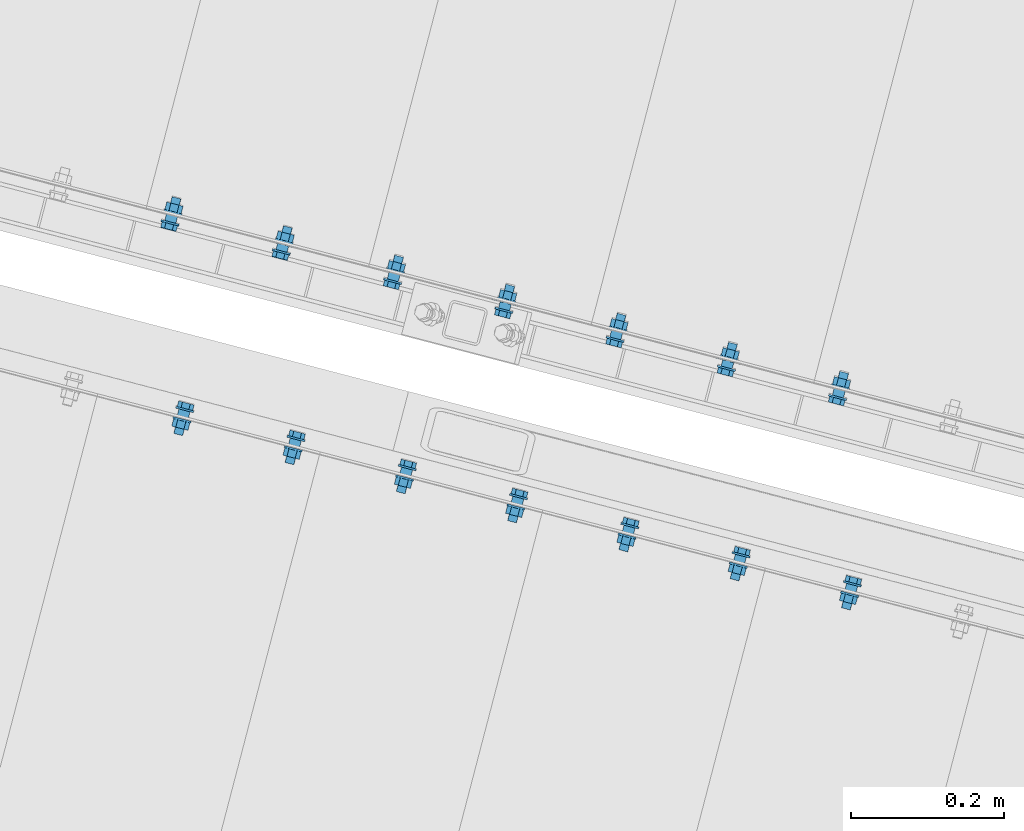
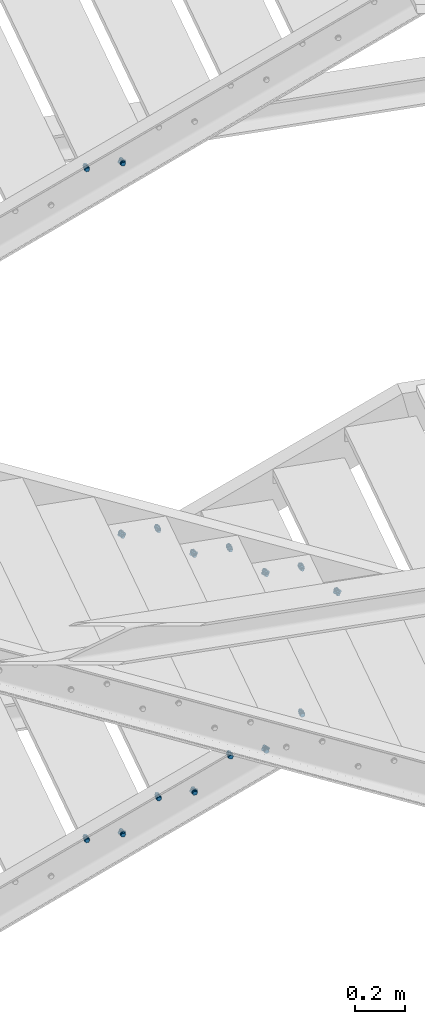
# One storey, part 142 of 169: 16 mechanical fasteners, 9 elements without a shape of their own.
"""IFC2X3 building model written with IfcOpenShell, lengths in millimetres."""

from ifc_helpers import new_model, si_unit, frame, frame_2d, origin_with_axes, origin_2d_with_axis, place, context, subcontext, project, spatial, polyline, circle_curve, parameter, trimmed, segment, composite_curve, circle, outline, extrude, source, transform, mapped, material, type_object, element, aggregate, save


model = new_model("IFC2X3")

# Units and contexts
model_context = context("Model", 3, precision=1e-05, world=origin_with_axes())
body_context = subcontext(model_context, "Body", "Model", "MODEL_VIEW")
ifc_project = project(units=[si_unit("LENGTHUNIT", "METRE", prefix="MILLI"), si_unit("AREAUNIT", "SQUARE_METRE"), si_unit("VOLUMEUNIT", "CUBIC_METRE"), si_unit("MASSUNIT", "GRAM", prefix="KILO"), si_unit("TIMEUNIT", "SECOND"), si_unit("PLANEANGLEUNIT", "RADIAN"), si_unit("SOLIDANGLEUNIT", "STERADIAN"), si_unit("THERMODYNAMICTEMPERATUREUNIT", "DEGREE_CELSIUS"), si_unit("LUMINOUSINTENSITYUNIT", "LUMEN")], contexts=[model_context])

# Site, building, storey
site_placement = place(None, origin_with_axes())
site = spatial("IfcSite", under=ifc_project, at=site_placement, Name="Undefined", CompositionType="ELEMENT")
building_placement = place(site_placement, origin_with_axes())
building = spatial("IfcBuilding", under=site, at=building_placement, Name="Undefined", CompositionType="ELEMENT")
storey_placement = place(building_placement, origin_with_axes())
storey = spatial("IfcBuildingStorey", under=building, at=storey_placement, Name="Undefined", CompositionType="ELEMENT", Elevation=0.0)

# Assembly, mechanical fastener
assembly_1_placement = place(storey_placement, origin_with_axes())
assembly_1 = element("IfcElementAssembly", 1, at=assembly_1_placement, inside=storey, Name="Steel Assembly", AssemblyPlace="NOTDEFINED", PredefinedType="RIGID_FRAME")
ifc_material = material(Name="Undefined")
discrete_accessory_type = type_object("IfcDiscreteAccessoryType", Name="Bolt assembly")
shared_shape_1 = source(origin_with_axes(), body_context, "Body", "SweptSolid", [
    extrude(circle(Radius=7.5, at=origin_2d_with_axis()), frame((0.0, -8.39999975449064, 0.0), z_axis=(0.0, 1.0, 0.0), x_axis=(1.0, 0.0, 0.0)), (0.0, 0.0, 1.0), 8.5),
    extrude(circle(Radius=7.5, at=origin_2d_with_axis()), frame((0.0, -0.100000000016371, 0.0), z_axis=(0.0, 1.0, 0.0), x_axis=(1.0, 0.0, 0.0)), (0.0, 0.0, 1.0), 3.1),
    extrude(outline(polyline([(10.39230484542, 0.0), (5.19615242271, 9.00000000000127), (-5.19615242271, 9.00000000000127), (-10.39230484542, 0.0), (-5.19615242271, -9.00000000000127), (5.19615242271, -9.00000000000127), (10.39230484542, 0.0)])), frame((0.0, -18.4999993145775, 0.0), z_axis=(0.0, 1.0, 0.0), x_axis=(1.0, 0.0, 0.0)), (0.0, 0.0, 1.0), 7.5),
    extrude(circle(Radius=6.0, at=origin_2d_with_axis()), frame((0.0, -10.9999999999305, 0.0), z_axis=(0.0, 1.0, 0.0), x_axis=(1.0, 0.0, 0.0)), (0.0, 0.0, 1.0), 35.0),
    extrude(circle(Radius=12.0, at=origin_2d_with_axis()), frame((0.0, -10.9999999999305, 0.0), z_axis=(0.0, 1.0, 0.0), x_axis=(1.0, 0.0, 0.0)), (0.0, 0.0, 1.0), 2.5),
    extrude(circle(Radius=12.0, at=origin_2d_with_axis()), frame((0.0, 2.99999999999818, 0.0), z_axis=(0.0, 1.0, 0.0), x_axis=(1.0, 0.0, 0.0)), (0.0, 0.0, 1.0), 2.5),
    extrude(outline(polyline([(10.96965511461, 0.0), (5.484827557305, 9.50000000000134), (-5.484827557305, 9.50000000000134), (-10.96965511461, 0.0), (-5.484827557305, -9.50000000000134), (5.484827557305, -9.50000000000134), (10.96965511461, 0.0)])), frame((0.0, 5.50000000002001, 0.0), z_axis=(0.0, 1.0, 0.0), x_axis=(1.0, 0.0, 0.0)), (0.0, 0.0, 1.0), 10.0),
])
mechanical_fastener_1_placement = place(assembly_1_placement, frame((-26178.0179908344, 6954.41184375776, 6500.09584768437), z_axis=(-2.54700353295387e-10, 0.0, -1.0), x_axis=(-0.967580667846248, 0.252562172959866, 0.0)))
mechanical_fastener_1 = element("IfcMechanicalFastener", 2, at=mechanical_fastener_1_placement, type_object=discrete_accessory_type, material=ifc_material, Name="Bolt assembly", NominalDiameter=12.0, NominalLength=35.0, context=body_context, shape_type="MappedRepresentation", body=[
    mapped(shared_shape_1, transform((264.999998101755, 3.26144800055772e-09, 24.9999997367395))),
])

assembly_2_placement = place(storey_placement, origin_with_axes())
assembly_2 = element("IfcElementAssembly", 3, at=assembly_2_placement, inside=storey, Name="Steel Assembly", AssemblyPlace="NOTDEFINED", PredefinedType="RIGID_FRAME")
mechanical_fastener_2_placement = place(assembly_2_placement, frame((-26531.5011611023, 6788.0910705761, 4850.32164420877), z_axis=(-2.54700353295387e-10, 0.0, -1.0), x_axis=(0.96754609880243, -0.252694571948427, 0.0)))
mechanical_fastener_2 = element("IfcMechanicalFastener", 4, at=mechanical_fastener_2_placement, type_object=discrete_accessory_type, material=ifc_material, Name="Bolt assembly", NominalDiameter=12.0, NominalLength=35.0, context=body_context, shape_type="MappedRepresentation", body=[
    mapped(shared_shape_1, transform((264.999998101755, 3.26144800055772e-09, 24.9999997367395))),
])

assembly_3_placement = place(storey_placement, origin_with_axes())
assembly_3 = element("IfcElementAssembly", 5, at=assembly_3_placement, inside=storey, Name="Steel Assembly", AssemblyPlace="NOTDEFINED", PredefinedType="RIGID_FRAME")
mechanical_fastener_3_placement = place(assembly_3_placement, frame((-26241.2373280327, 6712.2826982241, 4700.3216442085), z_axis=(-2.54700353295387e-10, 0.0, -1.0), x_axis=(0.96754609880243, -0.252694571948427, 0.0)))
mechanical_fastener_3 = element("IfcMechanicalFastener", 6, at=mechanical_fastener_3_placement, type_object=discrete_accessory_type, material=ifc_material, Name="Bolt assembly", NominalDiameter=12.0, NominalLength=35.0, context=body_context, shape_type="MappedRepresentation", body=[
    mapped(shared_shape_1, transform((264.999998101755, 3.26144800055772e-09, 24.9999997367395))),
])

assembly_4_placement = place(storey_placement, origin_with_axes())
assembly_4 = element("IfcElementAssembly", 7, at=assembly_4_placement, inside=storey, Name="Steel Assembly", AssemblyPlace="NOTDEFINED", PredefinedType="RIGID_FRAME")
mechanical_fastener_4_placement = place(assembly_4_placement, frame((-25950.9734949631, 6636.4743258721, 4550.32164420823), z_axis=(-2.54700353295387e-10, 0.0, -1.0), x_axis=(0.96754609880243, -0.252694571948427, 0.0)))
mechanical_fastener_4 = element("IfcMechanicalFastener", 8, at=mechanical_fastener_4_placement, type_object=discrete_accessory_type, material=ifc_material, Name="Bolt assembly", NominalDiameter=12.0, NominalLength=35.0, context=body_context, shape_type="MappedRepresentation", body=[
    mapped(shared_shape_1, transform((264.999998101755, 3.26144800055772e-09, 24.9999997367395))),
])

assembly_5_placement = place(storey_placement, origin_with_axes())
assembly_5 = element("IfcElementAssembly", 9, at=assembly_5_placement, inside=storey, Name="Steel Assembly", AssemblyPlace="NOTDEFINED", PredefinedType="RIGID_FRAME")
mechanical_fastener_5_placement = place(assembly_5_placement, frame((-25307.3094651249, 6726.66897274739, 3650.0958743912), z_axis=(-2.54700353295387e-10, 0.0, -1.0), x_axis=(-0.967580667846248, 0.252562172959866, 0.0)))
mechanical_fastener_5 = element("IfcMechanicalFastener", 10, at=mechanical_fastener_5_placement, type_object=discrete_accessory_type, material=ifc_material, Name="Bolt assembly", NominalDiameter=12.0, NominalLength=35.0, context=body_context, shape_type="MappedRepresentation", body=[
    mapped(shared_shape_1, transform((264.999998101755, 3.26144800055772e-09, 24.9999997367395))),
])
aggregate(assembly_5, [mechanical_fastener_5])

assembly_6_placement = place(storey_placement, origin_with_axes())
assembly_6 = element("IfcElementAssembly", 11, at=assembly_6_placement, inside=storey, Name="Steel Assembly", AssemblyPlace="NOTDEFINED", PredefinedType="RIGID_FRAME")
mechanical_fastener_6_placement = place(assembly_6_placement, frame((-25597.5836688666, 6802.4376255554, 3500.09587439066), z_axis=(-2.54700353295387e-10, 0.0, -1.0), x_axis=(-0.967580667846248, 0.252562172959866, 0.0)))
mechanical_fastener_6 = element("IfcMechanicalFastener", 12, at=mechanical_fastener_6_placement, type_object=discrete_accessory_type, material=ifc_material, Name="Bolt assembly", NominalDiameter=12.0, NominalLength=35.0, context=body_context, shape_type="MappedRepresentation", body=[
    mapped(shared_shape_1, transform((264.999998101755, 3.26144800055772e-09, 24.9999997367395))),
])

assembly_7_placement = place(storey_placement, origin_with_axes())
assembly_7 = element("IfcElementAssembly", 13, at=assembly_7_placement, inside=storey, Name="Steel Assembly", AssemblyPlace="NOTDEFINED", PredefinedType="RIGID_FRAME")
mechanical_fastener_7_placement = place(assembly_7_placement, frame((-25887.8578726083, 6878.20627836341, 3350.09587439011), z_axis=(-2.54700353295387e-10, 0.0, -1.0), x_axis=(-0.967580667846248, 0.252562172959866, 0.0)))
mechanical_fastener_7 = element("IfcMechanicalFastener", 14, at=mechanical_fastener_7_placement, type_object=discrete_accessory_type, material=ifc_material, Name="Bolt assembly", NominalDiameter=12.0, NominalLength=35.0, context=body_context, shape_type="MappedRepresentation", body=[
    mapped(shared_shape_1, transform((264.999998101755, 3.26144800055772e-09, 24.9999997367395))),
])

assembly_8_placement = place(storey_placement, origin_with_axes())
assembly_8 = element("IfcElementAssembly", 15, at=assembly_8_placement, inside=storey, Name="Steel Assembly", AssemblyPlace="NOTDEFINED", PredefinedType="RIGID_FRAME")
mechanical_fastener_8_placement = place(assembly_8_placement, frame((-26178.13207635, 6953.97493117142, 3200.09587438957), z_axis=(-2.54700353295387e-10, 0.0, -1.0), x_axis=(-0.967580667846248, 0.252562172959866, 0.0)))
mechanical_fastener_8 = element("IfcMechanicalFastener", 16, at=mechanical_fastener_8_placement, type_object=discrete_accessory_type, material=ifc_material, Name="Bolt assembly", NominalDiameter=12.0, NominalLength=35.0, context=body_context, shape_type="MappedRepresentation", body=[
    mapped(shared_shape_1, transform((264.999998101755, 3.26144800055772e-09, 24.9999997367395))),
])

# Mechanical fastener
shared_shape_2 = source(origin_with_axes(), body_context, "Body", "SweptSolid", [
    extrude(circle(Radius=7.5, at=origin_2d_with_axis()), frame((0.0, -8.39999975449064, 0.0), z_axis=(0.0, 1.0, 0.0), x_axis=(1.0, 0.0, 0.0)), (0.0, 0.0, 1.0), 8.5),
    extrude(outline(composite_curve([segment(polyline([(-10.0, 7.5), (10.0, 7.5)]), True, "CONTINUOUS"), segment(trimmed(circle_curve(frame_2d((10.0, 0.0), x_axis=(0.0, 1.0)), 7.5), [parameter(0.0)], [parameter(3.14159265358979)], False, "PARAMETER"), True, "CONTINUOUS"), segment(polyline([(10.0, -7.5), (-10.0, -7.5)]), True, "CONTINUOUS"), segment(trimmed(circle_curve(frame_2d((-10.0, 0.0), x_axis=(0.0, -1.0)), 7.5), [parameter(0.0)], [parameter(3.14159265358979)], False, "PARAMETER"), True, "DISCONTINUOUS")], self_intersect=False)), frame((0.0, -0.100000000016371, 0.0), z_axis=(0.0, 1.0, 0.0), x_axis=(1.0, 0.0, 0.0)), (0.0, 0.0, 1.0), 3.1),
    extrude(outline(polyline([(10.39230484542, 0.0), (5.19615242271, 9.00000000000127), (-5.19615242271, 9.00000000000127), (-10.39230484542, 0.0), (-5.19615242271, -9.00000000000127), (5.19615242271, -9.00000000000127), (10.39230484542, 0.0)])), frame((0.0, -18.4999993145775, 0.0), z_axis=(0.0, 1.0, 0.0), x_axis=(1.0, 0.0, 0.0)), (0.0, 0.0, 1.0), 7.5),
    extrude(circle(Radius=6.0, at=origin_2d_with_axis()), frame((0.0, -10.9999999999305, 0.0), z_axis=(0.0, 1.0, 0.0), x_axis=(1.0, 0.0, 0.0)), (0.0, 0.0, 1.0), 35.0),
    extrude(circle(Radius=12.0, at=origin_2d_with_axis()), frame((0.0, -10.9999999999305, 0.0), z_axis=(0.0, 1.0, 0.0), x_axis=(1.0, 0.0, 0.0)), (0.0, 0.0, 1.0), 2.5),
    extrude(circle(Radius=12.0, at=origin_2d_with_axis()), frame((0.0, 2.99999999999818, 0.0), z_axis=(0.0, 1.0, 0.0), x_axis=(1.0, 0.0, 0.0)), (0.0, 0.0, 1.0), 2.5),
    extrude(outline(polyline([(10.96965511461, 0.0), (5.484827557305, 9.50000000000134), (-5.484827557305, 9.50000000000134), (-10.96965511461, 0.0), (-5.484827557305, -9.50000000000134), (5.484827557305, -9.50000000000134), (10.96965511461, 0.0)])), frame((0.0, 5.50000000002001, 0.0), z_axis=(0.0, 1.0, 0.0), x_axis=(1.0, 0.0, 0.0)), (0.0, 0.0, 1.0), 10.0),
])
mechanical_fastener_9_placement = place(assembly_1_placement, frame((-26178.0179908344, 6954.41184375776, 6500.09584768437), z_axis=(-2.54700353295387e-10, 0.0, -1.0), x_axis=(-0.967580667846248, 0.252562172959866, 0.0)))
mechanical_fastener_9 = element("IfcMechanicalFastener", 17, at=mechanical_fastener_9_placement, type_object=discrete_accessory_type, material=ifc_material, Name="Bolt assembly", NominalDiameter=12.0, NominalLength=35.0, context=body_context, shape_type="MappedRepresentation", body=[
    mapped(shared_shape_2, transform((115.000000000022, -4.04725142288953e-10, 25.0))),
])

aggregate(assembly_1, [mechanical_fastener_9, mechanical_fastener_1])

shared_shape_3 = source(origin_with_axes(), body_context, "Body", "SweptSolid", [
    extrude(circle(Radius=7.5, at=origin_2d_with_axis()), frame((0.0, -8.39999975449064, 0.0), z_axis=(0.0, 1.0, 0.0), x_axis=(1.0, 0.0, 0.0)), (0.0, 0.0, 1.0), 8.5),
    extrude(outline(composite_curve([segment(polyline([(-10.0, 7.5), (10.0, 7.5)]), True, "CONTINUOUS"), segment(trimmed(circle_curve(frame_2d((10.0, 0.0), x_axis=(0.0, 1.0)), 7.5), [parameter(0.0)], [parameter(3.14159265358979)], False, "PARAMETER"), True, "CONTINUOUS"), segment(polyline([(10.0, -7.5), (-10.0, -7.5)]), True, "CONTINUOUS"), segment(trimmed(circle_curve(frame_2d((-10.0, 0.0), x_axis=(0.0, -1.0)), 7.5), [parameter(0.0)], [parameter(3.14159265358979)], False, "PARAMETER"), True, "DISCONTINUOUS")], self_intersect=False)), frame((0.0, -0.100000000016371, 0.0), z_axis=(0.0, 1.0, 0.0), x_axis=(1.0, 0.0, 0.0)), (0.0, 0.0, 1.0), 3.1),
    extrude(outline(polyline([(10.39230484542, 0.0), (5.19615242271, 9.00000000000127), (-5.19615242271, 9.00000000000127), (-10.39230484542, 0.0), (-5.19615242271, -9.00000000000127), (5.19615242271, -9.00000000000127), (10.39230484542, 0.0)])), frame((0.0, -18.4999993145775, 0.0), z_axis=(0.0, 1.0, 0.0), x_axis=(1.0, 0.0, 0.0)), (0.0, 0.0, 1.0), 7.5),
    extrude(circle(Radius=6.0, at=origin_2d_with_axis()), frame((0.0, -10.9999999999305, 0.0), z_axis=(0.0, 1.0, 0.0), x_axis=(1.0, 0.0, 0.0)), (0.0, 0.0, 1.0), 35.0),
    extrude(circle(Radius=12.0, at=origin_2d_with_axis()), frame((0.0, -10.9999999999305, 0.0), z_axis=(0.0, 1.0, 0.0), x_axis=(1.0, 0.0, 0.0)), (0.0, 0.0, 1.0), 2.5),
    extrude(circle(Radius=12.0, at=origin_2d_with_axis()), frame((0.0, 2.99999999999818, 0.0), z_axis=(0.0, 1.0, 0.0), x_axis=(1.0, 0.0, 0.0)), (0.0, 0.0, 1.0), 2.5),
    extrude(outline(polyline([(10.96965511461, 0.0), (5.484827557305, 9.50000000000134), (-5.484827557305, 9.50000000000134), (-10.96965511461, 0.0), (-5.484827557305, -9.50000000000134), (5.484827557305, -9.50000000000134), (10.96965511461, 0.0)])), frame((0.0, 5.50000000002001, 0.0), z_axis=(0.0, 1.0, 0.0), x_axis=(1.0, 0.0, 0.0)), (0.0, 0.0, 1.0), 10.0),
])
mechanical_fastener_10_placement = place(assembly_2_placement, frame((-26531.5011611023, 6788.0910705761, 4850.32164420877), z_axis=(-2.54700353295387e-10, 0.0, -1.0), x_axis=(0.96754609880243, -0.252694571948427, 0.0)))
mechanical_fastener_10 = element("IfcMechanicalFastener", 18, at=mechanical_fastener_10_placement, type_object=discrete_accessory_type, material=ifc_material, Name="Bolt assembly", NominalDiameter=12.0, NominalLength=35.0, context=body_context, shape_type="MappedRepresentation", body=[
    mapped(shared_shape_3, transform((115.000000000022, -4.04725142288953e-10, 25.0))),
])

aggregate(assembly_2, [mechanical_fastener_10, mechanical_fastener_2])

shared_shape_4 = source(origin_with_axes(), body_context, "Body", "SweptSolid", [
    extrude(circle(Radius=7.5, at=origin_2d_with_axis()), frame((0.0, -8.39999975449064, 0.0), z_axis=(0.0, 1.0, 0.0), x_axis=(1.0, 0.0, 0.0)), (0.0, 0.0, 1.0), 8.5),
    extrude(outline(composite_curve([segment(polyline([(-10.0, 7.5), (10.0, 7.5)]), True, "CONTINUOUS"), segment(trimmed(circle_curve(frame_2d((10.0, 0.0), x_axis=(0.0, 1.0)), 7.5), [parameter(0.0)], [parameter(3.14159265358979)], False, "PARAMETER"), True, "CONTINUOUS"), segment(polyline([(10.0, -7.5), (-10.0, -7.5)]), True, "CONTINUOUS"), segment(trimmed(circle_curve(frame_2d((-10.0, 0.0), x_axis=(0.0, -1.0)), 7.5), [parameter(0.0)], [parameter(3.14159265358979)], False, "PARAMETER"), True, "DISCONTINUOUS")], self_intersect=False)), frame((0.0, -0.100000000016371, 0.0), z_axis=(0.0, 1.0, 0.0), x_axis=(1.0, 0.0, 0.0)), (0.0, 0.0, 1.0), 3.1),
    extrude(outline(polyline([(10.39230484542, 0.0), (5.19615242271, 9.00000000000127), (-5.19615242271, 9.00000000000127), (-10.39230484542, 0.0), (-5.19615242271, -9.00000000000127), (5.19615242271, -9.00000000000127), (10.39230484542, 0.0)])), frame((0.0, -18.4999993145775, 0.0), z_axis=(0.0, 1.0, 0.0), x_axis=(1.0, 0.0, 0.0)), (0.0, 0.0, 1.0), 7.5),
    extrude(circle(Radius=6.0, at=origin_2d_with_axis()), frame((0.0, -10.9999999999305, 0.0), z_axis=(0.0, 1.0, 0.0), x_axis=(1.0, 0.0, 0.0)), (0.0, 0.0, 1.0), 35.0),
    extrude(circle(Radius=12.0, at=origin_2d_with_axis()), frame((0.0, -10.9999999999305, 0.0), z_axis=(0.0, 1.0, 0.0), x_axis=(1.0, 0.0, 0.0)), (0.0, 0.0, 1.0), 2.5),
    extrude(circle(Radius=12.0, at=origin_2d_with_axis()), frame((0.0, 2.99999999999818, 0.0), z_axis=(0.0, 1.0, 0.0), x_axis=(1.0, 0.0, 0.0)), (0.0, 0.0, 1.0), 2.5),
    extrude(outline(polyline([(10.96965511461, 0.0), (5.484827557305, 9.50000000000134), (-5.484827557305, 9.50000000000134), (-10.96965511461, 0.0), (-5.484827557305, -9.50000000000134), (5.484827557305, -9.50000000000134), (10.96965511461, 0.0)])), frame((0.0, 5.50000000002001, 0.0), z_axis=(0.0, 1.0, 0.0), x_axis=(1.0, 0.0, 0.0)), (0.0, 0.0, 1.0), 10.0),
])
mechanical_fastener_11_placement = place(assembly_3_placement, frame((-26241.2373280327, 6712.2826982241, 4700.3216442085), z_axis=(-2.54700353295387e-10, 0.0, -1.0), x_axis=(0.96754609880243, -0.252694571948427, 0.0)))
mechanical_fastener_11 = element("IfcMechanicalFastener", 19, at=mechanical_fastener_11_placement, type_object=discrete_accessory_type, material=ifc_material, Name="Bolt assembly", NominalDiameter=12.0, NominalLength=35.0, context=body_context, shape_type="MappedRepresentation", body=[
    mapped(shared_shape_4, transform((115.000000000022, -4.04725142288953e-10, 25.0))),
])

aggregate(assembly_3, [mechanical_fastener_11, mechanical_fastener_3])

shared_shape_5 = source(origin_with_axes(), body_context, "Body", "SweptSolid", [
    extrude(circle(Radius=7.5, at=origin_2d_with_axis()), frame((0.0, -8.39999975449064, 0.0), z_axis=(0.0, 1.0, 0.0), x_axis=(1.0, 0.0, 0.0)), (0.0, 0.0, 1.0), 8.5),
    extrude(outline(composite_curve([segment(polyline([(-10.0, 7.5), (10.0, 7.5)]), True, "CONTINUOUS"), segment(trimmed(circle_curve(frame_2d((10.0, 0.0), x_axis=(0.0, 1.0)), 7.5), [parameter(0.0)], [parameter(3.14159265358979)], False, "PARAMETER"), True, "CONTINUOUS"), segment(polyline([(10.0, -7.5), (-10.0, -7.5)]), True, "CONTINUOUS"), segment(trimmed(circle_curve(frame_2d((-10.0, 0.0), x_axis=(0.0, -1.0)), 7.5), [parameter(0.0)], [parameter(3.14159265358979)], False, "PARAMETER"), True, "DISCONTINUOUS")], self_intersect=False)), frame((0.0, -0.100000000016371, 0.0), z_axis=(0.0, 1.0, 0.0), x_axis=(1.0, 0.0, 0.0)), (0.0, 0.0, 1.0), 3.1),
    extrude(outline(polyline([(10.39230484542, 0.0), (5.19615242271, 9.00000000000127), (-5.19615242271, 9.00000000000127), (-10.39230484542, 0.0), (-5.19615242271, -9.00000000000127), (5.19615242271, -9.00000000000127), (10.39230484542, 0.0)])), frame((0.0, -18.4999993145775, 0.0), z_axis=(0.0, 1.0, 0.0), x_axis=(1.0, 0.0, 0.0)), (0.0, 0.0, 1.0), 7.5),
    extrude(circle(Radius=6.0, at=origin_2d_with_axis()), frame((0.0, -10.9999999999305, 0.0), z_axis=(0.0, 1.0, 0.0), x_axis=(1.0, 0.0, 0.0)), (0.0, 0.0, 1.0), 35.0),
    extrude(circle(Radius=12.0, at=origin_2d_with_axis()), frame((0.0, -10.9999999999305, 0.0), z_axis=(0.0, 1.0, 0.0), x_axis=(1.0, 0.0, 0.0)), (0.0, 0.0, 1.0), 2.5),
    extrude(circle(Radius=12.0, at=origin_2d_with_axis()), frame((0.0, 2.99999999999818, 0.0), z_axis=(0.0, 1.0, 0.0), x_axis=(1.0, 0.0, 0.0)), (0.0, 0.0, 1.0), 2.5),
    extrude(outline(polyline([(10.96965511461, 0.0), (5.484827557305, 9.50000000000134), (-5.484827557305, 9.50000000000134), (-10.96965511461, 0.0), (-5.484827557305, -9.50000000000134), (5.484827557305, -9.50000000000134), (10.96965511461, 0.0)])), frame((0.0, 5.50000000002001, 0.0), z_axis=(0.0, 1.0, 0.0), x_axis=(1.0, 0.0, 0.0)), (0.0, 0.0, 1.0), 10.0),
])
mechanical_fastener_12_placement = place(assembly_4_placement, frame((-25950.9734949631, 6636.4743258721, 4550.32164420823), z_axis=(-2.54700353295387e-10, 0.0, -1.0), x_axis=(0.96754609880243, -0.252694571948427, 0.0)))
mechanical_fastener_12 = element("IfcMechanicalFastener", 20, at=mechanical_fastener_12_placement, type_object=discrete_accessory_type, material=ifc_material, Name="Bolt assembly", NominalDiameter=12.0, NominalLength=35.0, context=body_context, shape_type="MappedRepresentation", body=[
    mapped(shared_shape_5, transform((115.000000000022, -4.04725142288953e-10, 25.0))),
])

aggregate(assembly_4, [mechanical_fastener_12, mechanical_fastener_4])

# Assembly, mechanical fastener
assembly_9_placement = place(storey_placement, origin_with_axes())
assembly_9 = element("IfcElementAssembly", 21, at=assembly_9_placement, inside=storey, Name="Steel Assembly", AssemblyPlace="NOTDEFINED", PredefinedType="RIGID_FRAME")
shared_shape_6 = source(origin_with_axes(), body_context, "Body", "SweptSolid", [
    extrude(circle(Radius=7.5, at=origin_2d_with_axis()), frame((0.0, -8.39999975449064, 0.0), z_axis=(0.0, 1.0, 0.0), x_axis=(1.0, 0.0, 0.0)), (0.0, 0.0, 1.0), 8.5),
    extrude(outline(composite_curve([segment(polyline([(-10.0, 7.5), (10.0, 7.5)]), True, "CONTINUOUS"), segment(trimmed(circle_curve(frame_2d((10.0, 0.0), x_axis=(0.0, 1.0)), 7.5), [parameter(0.0)], [parameter(3.14159265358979)], False, "PARAMETER"), True, "CONTINUOUS"), segment(polyline([(10.0, -7.5), (-10.0, -7.5)]), True, "CONTINUOUS"), segment(trimmed(circle_curve(frame_2d((-10.0, 0.0), x_axis=(0.0, -1.0)), 7.5), [parameter(0.0)], [parameter(3.14159265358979)], False, "PARAMETER"), True, "DISCONTINUOUS")], self_intersect=False)), frame((0.0, -0.100000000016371, 0.0), z_axis=(0.0, 1.0, 0.0), x_axis=(1.0, 0.0, 0.0)), (0.0, 0.0, 1.0), 3.1),
    extrude(outline(polyline([(10.39230484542, 0.0), (5.19615242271, 9.00000000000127), (-5.19615242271, 9.00000000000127), (-10.39230484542, 0.0), (-5.19615242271, -9.00000000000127), (5.19615242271, -9.00000000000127), (10.39230484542, 0.0)])), frame((0.0, -18.4999993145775, 0.0), z_axis=(0.0, 1.0, 0.0), x_axis=(1.0, 0.0, 0.0)), (0.0, 0.0, 1.0), 7.5),
    extrude(circle(Radius=6.0, at=origin_2d_with_axis()), frame((0.0, -10.9999999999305, 0.0), z_axis=(0.0, 1.0, 0.0), x_axis=(1.0, 0.0, 0.0)), (0.0, 0.0, 1.0), 35.0),
    extrude(circle(Radius=12.0, at=origin_2d_with_axis()), frame((0.0, -10.9999999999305, 0.0), z_axis=(0.0, 1.0, 0.0), x_axis=(1.0, 0.0, 0.0)), (0.0, 0.0, 1.0), 2.5),
    extrude(circle(Radius=12.0, at=origin_2d_with_axis()), frame((0.0, 2.99999999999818, 0.0), z_axis=(0.0, 1.0, 0.0), x_axis=(1.0, 0.0, 0.0)), (0.0, 0.0, 1.0), 2.5),
    extrude(outline(polyline([(10.96965511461, 0.0), (5.484827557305, 9.50000000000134), (-5.484827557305, 9.50000000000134), (-10.96965511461, 0.0), (-5.484827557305, -9.50000000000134), (5.484827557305, -9.50000000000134), (10.96965511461, 0.0)])), frame((0.0, 5.50000000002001, 0.0), z_axis=(0.0, 1.0, 0.0), x_axis=(1.0, 0.0, 0.0)), (0.0, 0.0, 1.0), 10.0),
])
mechanical_fastener_13_placement = place(assembly_9_placement, frame((-25660.7096618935, 6560.6659535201, 4400.32164420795), z_axis=(-2.54700353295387e-10, 0.0, -1.0), x_axis=(0.96754609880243, -0.252694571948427, 0.0)))
mechanical_fastener_13 = element("IfcMechanicalFastener", 22, at=mechanical_fastener_13_placement, type_object=discrete_accessory_type, material=ifc_material, Name="Bolt assembly", NominalDiameter=12.0, NominalLength=35.0, context=body_context, shape_type="MappedRepresentation", body=[
    mapped(shared_shape_6, transform((115.000000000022, -4.04725142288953e-10, 25.0))),
])
aggregate(assembly_9, [mechanical_fastener_13])

# Mechanical fastener
shared_shape_7 = source(origin_with_axes(), body_context, "Body", "SweptSolid", [
    extrude(circle(Radius=7.5, at=origin_2d_with_axis()), frame((0.0, -8.39999975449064, 0.0), z_axis=(0.0, 1.0, 0.0), x_axis=(1.0, 0.0, 0.0)), (0.0, 0.0, 1.0), 8.5),
    extrude(outline(composite_curve([segment(polyline([(-10.0, 7.5), (10.0, 7.5)]), True, "CONTINUOUS"), segment(trimmed(circle_curve(frame_2d((10.0, 0.0), x_axis=(0.0, 1.0)), 7.5), [parameter(0.0)], [parameter(3.14159265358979)], False, "PARAMETER"), True, "CONTINUOUS"), segment(polyline([(10.0, -7.5), (-10.0, -7.5)]), True, "CONTINUOUS"), segment(trimmed(circle_curve(frame_2d((-10.0, 0.0), x_axis=(0.0, -1.0)), 7.5), [parameter(0.0)], [parameter(3.14159265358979)], False, "PARAMETER"), True, "DISCONTINUOUS")], self_intersect=False)), frame((0.0, -0.100000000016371, 0.0), z_axis=(0.0, 1.0, 0.0), x_axis=(1.0, 0.0, 0.0)), (0.0, 0.0, 1.0), 3.1),
    extrude(outline(polyline([(10.39230484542, 0.0), (5.19615242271, 9.00000000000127), (-5.19615242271, 9.00000000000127), (-10.39230484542, 0.0), (-5.19615242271, -9.00000000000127), (5.19615242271, -9.00000000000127), (10.39230484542, 0.0)])), frame((0.0, -18.4999993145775, 0.0), z_axis=(0.0, 1.0, 0.0), x_axis=(1.0, 0.0, 0.0)), (0.0, 0.0, 1.0), 7.5),
    extrude(circle(Radius=6.0, at=origin_2d_with_axis()), frame((0.0, -10.9999999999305, 0.0), z_axis=(0.0, 1.0, 0.0), x_axis=(1.0, 0.0, 0.0)), (0.0, 0.0, 1.0), 35.0),
    extrude(circle(Radius=12.0, at=origin_2d_with_axis()), frame((0.0, -10.9999999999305, 0.0), z_axis=(0.0, 1.0, 0.0), x_axis=(1.0, 0.0, 0.0)), (0.0, 0.0, 1.0), 2.5),
    extrude(circle(Radius=12.0, at=origin_2d_with_axis()), frame((0.0, 2.99999999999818, 0.0), z_axis=(0.0, 1.0, 0.0), x_axis=(1.0, 0.0, 0.0)), (0.0, 0.0, 1.0), 2.5),
    extrude(outline(polyline([(10.96965511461, 0.0), (5.484827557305, 9.50000000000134), (-5.484827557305, 9.50000000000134), (-10.96965511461, 0.0), (-5.484827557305, -9.50000000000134), (5.484827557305, -9.50000000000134), (10.96965511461, 0.0)])), frame((0.0, 5.50000000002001, 0.0), z_axis=(0.0, 1.0, 0.0), x_axis=(1.0, 0.0, 0.0)), (0.0, 0.0, 1.0), 10.0),
])
mechanical_fastener_14_placement = place(assembly_6_placement, frame((-25597.5836688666, 6802.4376255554, 3500.09587439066), z_axis=(-2.54700353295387e-10, 0.0, -1.0), x_axis=(-0.967580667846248, 0.252562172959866, 0.0)))
mechanical_fastener_14 = element("IfcMechanicalFastener", 23, at=mechanical_fastener_14_placement, type_object=discrete_accessory_type, material=ifc_material, Name="Bolt assembly", NominalDiameter=12.0, NominalLength=35.0, context=body_context, shape_type="MappedRepresentation", body=[
    mapped(shared_shape_7, transform((115.000000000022, -4.04725142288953e-10, 25.0))),
])

aggregate(assembly_6, [mechanical_fastener_14, mechanical_fastener_6])

shared_shape_8 = source(origin_with_axes(), body_context, "Body", "SweptSolid", [
    extrude(circle(Radius=7.5, at=origin_2d_with_axis()), frame((0.0, -8.39999975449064, 0.0), z_axis=(0.0, 1.0, 0.0), x_axis=(1.0, 0.0, 0.0)), (0.0, 0.0, 1.0), 8.5),
    extrude(outline(composite_curve([segment(polyline([(-10.0, 7.5), (10.0, 7.5)]), True, "CONTINUOUS"), segment(trimmed(circle_curve(frame_2d((10.0, 0.0), x_axis=(0.0, 1.0)), 7.5), [parameter(0.0)], [parameter(3.14159265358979)], False, "PARAMETER"), True, "CONTINUOUS"), segment(polyline([(10.0, -7.5), (-10.0, -7.5)]), True, "CONTINUOUS"), segment(trimmed(circle_curve(frame_2d((-10.0, 0.0), x_axis=(0.0, -1.0)), 7.5), [parameter(0.0)], [parameter(3.14159265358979)], False, "PARAMETER"), True, "DISCONTINUOUS")], self_intersect=False)), frame((0.0, -0.100000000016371, 0.0), z_axis=(0.0, 1.0, 0.0), x_axis=(1.0, 0.0, 0.0)), (0.0, 0.0, 1.0), 3.1),
    extrude(outline(polyline([(10.39230484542, 0.0), (5.19615242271, 9.00000000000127), (-5.19615242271, 9.00000000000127), (-10.39230484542, 0.0), (-5.19615242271, -9.00000000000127), (5.19615242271, -9.00000000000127), (10.39230484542, 0.0)])), frame((0.0, -18.4999993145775, 0.0), z_axis=(0.0, 1.0, 0.0), x_axis=(1.0, 0.0, 0.0)), (0.0, 0.0, 1.0), 7.5),
    extrude(circle(Radius=6.0, at=origin_2d_with_axis()), frame((0.0, -10.9999999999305, 0.0), z_axis=(0.0, 1.0, 0.0), x_axis=(1.0, 0.0, 0.0)), (0.0, 0.0, 1.0), 35.0),
    extrude(circle(Radius=12.0, at=origin_2d_with_axis()), frame((0.0, -10.9999999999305, 0.0), z_axis=(0.0, 1.0, 0.0), x_axis=(1.0, 0.0, 0.0)), (0.0, 0.0, 1.0), 2.5),
    extrude(circle(Radius=12.0, at=origin_2d_with_axis()), frame((0.0, 2.99999999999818, 0.0), z_axis=(0.0, 1.0, 0.0), x_axis=(1.0, 0.0, 0.0)), (0.0, 0.0, 1.0), 2.5),
    extrude(outline(polyline([(10.96965511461, 0.0), (5.484827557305, 9.50000000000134), (-5.484827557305, 9.50000000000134), (-10.96965511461, 0.0), (-5.484827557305, -9.50000000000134), (5.484827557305, -9.50000000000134), (10.96965511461, 0.0)])), frame((0.0, 5.50000000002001, 0.0), z_axis=(0.0, 1.0, 0.0), x_axis=(1.0, 0.0, 0.0)), (0.0, 0.0, 1.0), 10.0),
])
mechanical_fastener_15_placement = place(assembly_7_placement, frame((-25887.8578726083, 6878.20627836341, 3350.09587439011), z_axis=(-2.54700353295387e-10, 0.0, -1.0), x_axis=(-0.967580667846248, 0.252562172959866, 0.0)))
mechanical_fastener_15 = element("IfcMechanicalFastener", 24, at=mechanical_fastener_15_placement, type_object=discrete_accessory_type, material=ifc_material, Name="Bolt assembly", NominalDiameter=12.0, NominalLength=35.0, context=body_context, shape_type="MappedRepresentation", body=[
    mapped(shared_shape_8, transform((115.000000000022, -4.04725142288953e-10, 25.0))),
])

aggregate(assembly_7, [mechanical_fastener_15, mechanical_fastener_7])

shared_shape_9 = source(origin_with_axes(), body_context, "Body", "SweptSolid", [
    extrude(circle(Radius=7.5, at=origin_2d_with_axis()), frame((0.0, -8.39999975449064, 0.0), z_axis=(0.0, 1.0, 0.0), x_axis=(1.0, 0.0, 0.0)), (0.0, 0.0, 1.0), 8.5),
    extrude(outline(composite_curve([segment(polyline([(-10.0, 7.5), (10.0, 7.5)]), True, "CONTINUOUS"), segment(trimmed(circle_curve(frame_2d((10.0, 0.0), x_axis=(0.0, 1.0)), 7.5), [parameter(0.0)], [parameter(3.14159265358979)], False, "PARAMETER"), True, "CONTINUOUS"), segment(polyline([(10.0, -7.5), (-10.0, -7.5)]), True, "CONTINUOUS"), segment(trimmed(circle_curve(frame_2d((-10.0, 0.0), x_axis=(0.0, -1.0)), 7.5), [parameter(0.0)], [parameter(3.14159265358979)], False, "PARAMETER"), True, "DISCONTINUOUS")], self_intersect=False)), frame((0.0, -0.100000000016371, 0.0), z_axis=(0.0, 1.0, 0.0), x_axis=(1.0, 0.0, 0.0)), (0.0, 0.0, 1.0), 3.1),
    extrude(outline(polyline([(10.39230484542, 0.0), (5.19615242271, 9.00000000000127), (-5.19615242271, 9.00000000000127), (-10.39230484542, 0.0), (-5.19615242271, -9.00000000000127), (5.19615242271, -9.00000000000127), (10.39230484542, 0.0)])), frame((0.0, -18.4999993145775, 0.0), z_axis=(0.0, 1.0, 0.0), x_axis=(1.0, 0.0, 0.0)), (0.0, 0.0, 1.0), 7.5),
    extrude(circle(Radius=6.0, at=origin_2d_with_axis()), frame((0.0, -10.9999999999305, 0.0), z_axis=(0.0, 1.0, 0.0), x_axis=(1.0, 0.0, 0.0)), (0.0, 0.0, 1.0), 35.0),
    extrude(circle(Radius=12.0, at=origin_2d_with_axis()), frame((0.0, -10.9999999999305, 0.0), z_axis=(0.0, 1.0, 0.0), x_axis=(1.0, 0.0, 0.0)), (0.0, 0.0, 1.0), 2.5),
    extrude(circle(Radius=12.0, at=origin_2d_with_axis()), frame((0.0, 2.99999999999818, 0.0), z_axis=(0.0, 1.0, 0.0), x_axis=(1.0, 0.0, 0.0)), (0.0, 0.0, 1.0), 2.5),
    extrude(outline(polyline([(10.96965511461, 0.0), (5.484827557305, 9.50000000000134), (-5.484827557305, 9.50000000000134), (-10.96965511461, 0.0), (-5.484827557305, -9.50000000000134), (5.484827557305, -9.50000000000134), (10.96965511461, 0.0)])), frame((0.0, 5.50000000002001, 0.0), z_axis=(0.0, 1.0, 0.0), x_axis=(1.0, 0.0, 0.0)), (0.0, 0.0, 1.0), 10.0),
])
mechanical_fastener_16_placement = place(assembly_8_placement, frame((-26178.13207635, 6953.97493117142, 3200.09587438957), z_axis=(-2.54700353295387e-10, 0.0, -1.0), x_axis=(-0.967580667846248, 0.252562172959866, 0.0)))
mechanical_fastener_16 = element("IfcMechanicalFastener", 25, at=mechanical_fastener_16_placement, type_object=discrete_accessory_type, material=ifc_material, Name="Bolt assembly", NominalDiameter=12.0, NominalLength=35.0, context=body_context, shape_type="MappedRepresentation", body=[
    mapped(shared_shape_9, transform((115.000000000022, -4.04725142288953e-10, 25.0))),
])

aggregate(assembly_8, [mechanical_fastener_16, mechanical_fastener_8])

save(model, "model.ifc")
